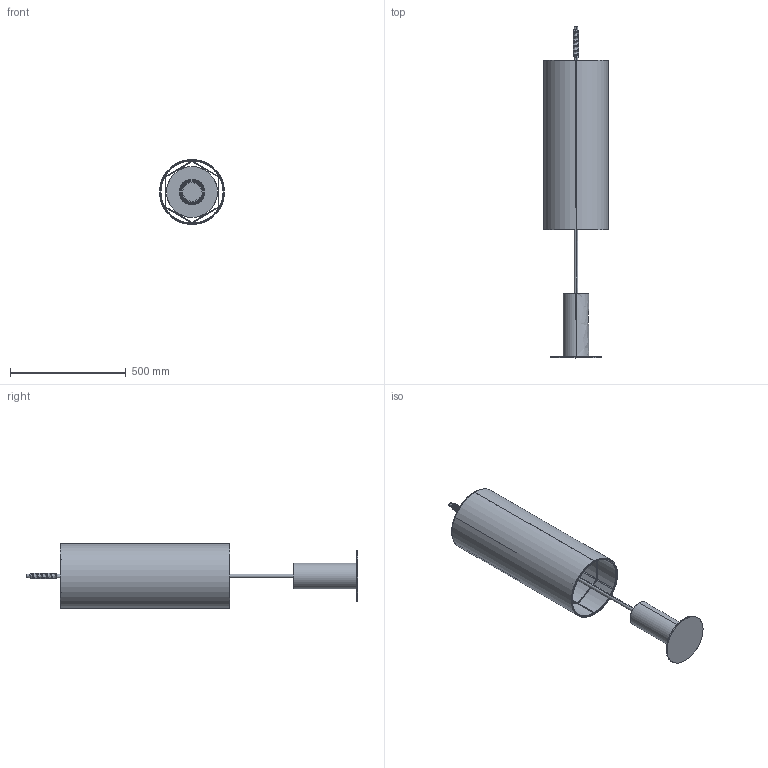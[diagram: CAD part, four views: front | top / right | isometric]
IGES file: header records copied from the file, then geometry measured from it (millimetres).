
Start section: SolidWorks IGES file using analytic representation for surfaces
Global section: file name: C:\SANTACOLE_PDM\Proyectos Catálogo\PROD-P13-033 -- DORICA\6_Técnico comercial\3D\Dorica.IGS; native system: SolidWorks 2019; preprocessor: SolidWorks 2019; author: louis.ferraz; date: 200402.153918; units: millimetre
Bounding box: 280 x 1431.99 x 280 mm (x, y, z)
Surface area: 1877867.1 mm2 (no closed solid volume)
Topology: 0 solids, 0 shells, 265 faces, 6529 edges, 6498 vertices
Faces by surface type: revolution 139, bspline 126
